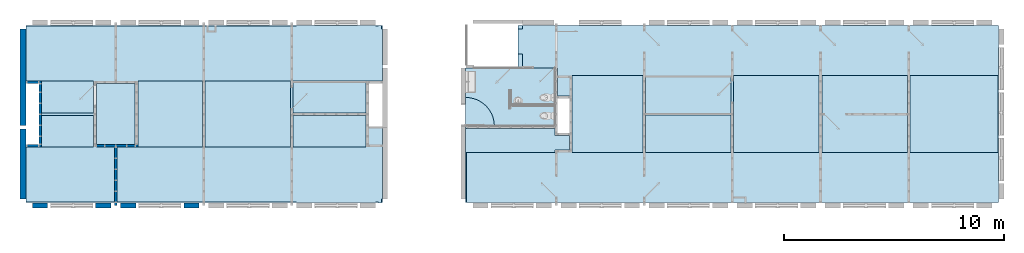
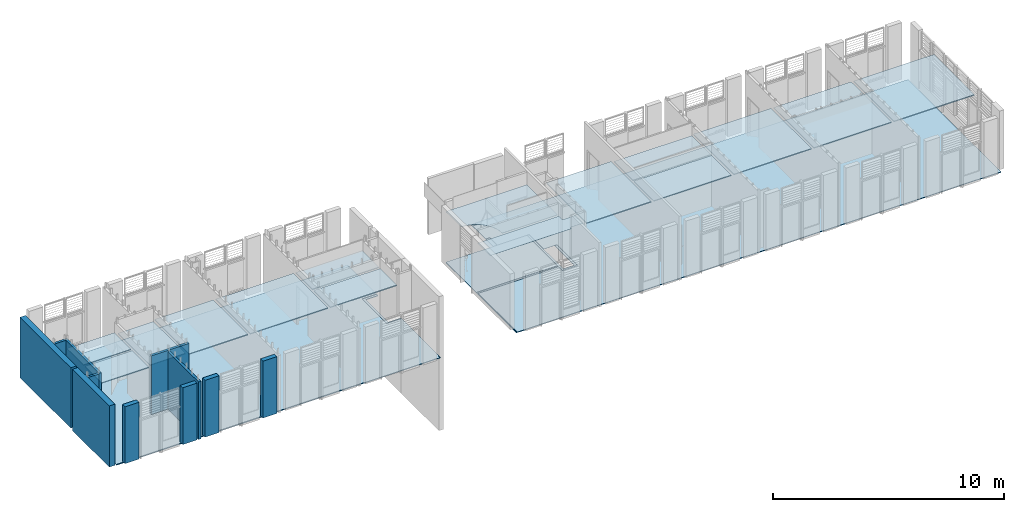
# One storey, part 4 of 20: 20 slabs, 11 walls, 1 opening.
"""IFC2X3 building model written with IfcOpenShell, lengths in metres."""

from ifc_helpers import new_model, entity, si_unit, converted_unit, derived_unit, direction, frame, frame_2d, origin, origin_2d_with_axis, place, context, subcontext, project, spatial, polyline, circle_curve, parameter, trimmed, segment, composite_curve, rectangle, outline, extrude, material, layer, layer_set, layer_usage, type_object, element, save


model = new_model("IFC2X3")

# Units and contexts
model_context = context("Model", 3, precision=1e-05, world=origin(), true_north=direction((6.12303176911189e-17, 1.0)))
body_context = subcontext(model_context, "Body", "Model", "MODEL_VIEW")
ifc_project = project(units=[si_unit("LENGTHUNIT", "METRE"), si_unit("AREAUNIT", "SQUARE_METRE"), si_unit("VOLUMEUNIT", "CUBIC_METRE"), converted_unit("PLANEANGLEUNIT", "DEGREE", entity("IfcRatioMeasure", 0.0174532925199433), si_unit("PLANEANGLEUNIT", "RADIAN"), dimensions=[0, 0, 0, 0, 0, 0, 0]), si_unit("MASSUNIT", "GRAM", prefix="KILO"), derived_unit("MASSDENSITYUNIT", [(si_unit("MASSUNIT", "GRAM", prefix="KILO"), 1), (si_unit("LENGTHUNIT", "METRE"), -3)]), si_unit("TIMEUNIT", "SECOND"), si_unit("FREQUENCYUNIT", "HERTZ"), si_unit("THERMODYNAMICTEMPERATUREUNIT", "DEGREE_CELSIUS"), derived_unit("THERMALTRANSMITTANCEUNIT", [(si_unit("MASSUNIT", "GRAM", prefix="KILO"), 1), (si_unit("THERMODYNAMICTEMPERATUREUNIT", "KELVIN"), -1), (si_unit("TIMEUNIT", "SECOND"), -3)]), derived_unit("VOLUMETRICFLOWRATEUNIT", [(si_unit("LENGTHUNIT", "METRE"), 3), (si_unit("TIMEUNIT", "SECOND"), -1)]), si_unit("ELECTRICCURRENTUNIT", "AMPERE"), si_unit("ELECTRICVOLTAGEUNIT", "VOLT"), si_unit("POWERUNIT", "WATT"), si_unit("FORCEUNIT", "NEWTON", prefix="KILO"), si_unit("ILLUMINANCEUNIT", "LUX"), si_unit("LUMINOUSFLUXUNIT", "LUMEN"), si_unit("LUMINOUSINTENSITYUNIT", "CANDELA"), derived_unit("USERDEFINED", [(si_unit("MASSUNIT", "GRAM", prefix="KILO"), -1), (si_unit("LENGTHUNIT", "METRE"), -2), (si_unit("TIMEUNIT", "SECOND"), 3), (si_unit("LUMINOUSFLUXUNIT", "LUMEN"), 1)]), derived_unit("LINEARVELOCITYUNIT", [(si_unit("LENGTHUNIT", "METRE"), 1), (si_unit("TIMEUNIT", "SECOND"), -1)]), si_unit("PRESSUREUNIT", "PASCAL"), derived_unit("USERDEFINED", [(si_unit("LENGTHUNIT", "METRE"), -2), (si_unit("MASSUNIT", "GRAM", prefix="KILO"), 1), (si_unit("TIMEUNIT", "SECOND"), -2)])], contexts=[model_context])

# Site, building, storey
site_placement = place(None, origin())
site = spatial("IfcSite", under=ifc_project, at=site_placement, Name="Surface", CompositionType="ELEMENT")
building_placement = place(site_placement, origin())
building = spatial("IfcBuilding", under=site, at=building_placement, Name="ExPREF", CompositionType="ELEMENT")
storey_placement = place(building_placement, frame((0.0, 0.0, 4.27)))
storey = spatial("IfcBuildingStorey", under=building, at=storey_placement, Name="R+1", CompositionType="ELEMENT", Elevation=4.27)

# Slab, opening
ifc_material_1 = material(Name="AA-isolant plancher")
ifc_layer_1 = layer(ifc_material_1, 0.025)
ifc_layer_set_1 = layer_set([ifc_layer_1], Name="Sol:A-isolant 2.5cm")
ifc_layer_usage_1 = layer_usage(ifc_layer_set_1, "AXIS3", "POSITIVE", 0.0)
slab_1_placement = place(storey_placement, frame((25.4197436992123, -193.229651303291, -0.0349999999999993)))
slab_1 = element("IfcSlab", 1, at=slab_1_placement, inside=storey, material=ifc_layer_usage_1, Name="Sol:A-isolant 2.5cm", ObjectType="Sol:A-isolant 2.5cm", PredefinedType="FLOOR", context=body_context, shape_type="SweptSolid", body=[
    extrude(outline(polyline([(-22.0799999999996, 4.02158167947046), (-22.0799999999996, -4.02158167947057), (2.12, -4.02158167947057), (2.12, 2.08908136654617), (-0.250000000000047, 2.08908136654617), (-0.250000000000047, 4.02158167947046), (-22.0799999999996, 4.02158167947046)])), frame((22.0799999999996, 4.02158167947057, 0.0249999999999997), z_axis=(0.0, 0.0, -1.0), x_axis=(-1.0, 0.0, 0.0)), (0.0, 0.0, 1.0), 0.0249999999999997),
])
opening_placement = place(slab_1_placement, frame((24.3999999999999, 4.40758160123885, 0.0249999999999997)))
element("IfcOpeningElement", 2, at=opening_placement, cuts=slab_1, Name="Sol:A-isolant 2.5cm:2", ObjectType="Opening", context=body_context, shape_type="SweptSolid", body=[
    extrude(rectangle(XDim=0.555000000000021, YDim=2.50699984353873, at=origin_2d_with_axis()), frame((0.0, 0.0, 0.0), z_axis=(0.0, 0.0, -1.0), x_axis=(1.0, 0.0, 0.0)), (0.0, 0.0, 1.0), 0.0249999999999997),
])

# Slabs
slab_2_placement = place(storey_placement, frame((25.4197436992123, -193.229651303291, -0.0349999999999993)))
element("IfcSlab", 3, at=slab_2_placement, inside=storey, material=ifc_layer_usage_1, Name="Sol:A-isolant 2.5cm:2", ObjectType="Sol:A-isolant 2.5cm", PredefinedType="FLOOR", context=body_context, shape_type="SweptSolid", body=[
    extrude(outline(polyline([(5.89999999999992, 4.02158167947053), (5.89999999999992, 1.38399999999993), (6.5219999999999, 1.38399999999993), (6.5219999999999, -0.565000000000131), (5.89999999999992, -0.565000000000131), (5.89999999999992, -4.02158167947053), (22.0799999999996, -4.02158167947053), (22.0799999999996, -1.38400000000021), (21.4979999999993, -1.38400000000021), (21.4979999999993, 1.384), (22.0799999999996, 1.384), (22.0799999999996, 4.02158167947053), (5.89999999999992, 4.02158167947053)])), frame((22.0799999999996, 4.02158167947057, 0.0249999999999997), z_axis=(0.0, 0.0, -1.0), x_axis=(-1.0, 0.0, 0.0)), (0.0, 0.0, 1.0), 0.0249999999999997),
])
ifc_material_2 = material(Name="AA-sol souple")
ifc_layer_2 = layer(ifc_material_2, 0.01)
ifc_layer_set_2 = layer_set([ifc_layer_2], Name="Sol:A-sol souple")
ifc_layer_usage_2 = layer_usage(ifc_layer_set_2, "AXIS3", "POSITIVE", 0.0)
slab_3_placement = place(storey_placement, origin())
element("IfcSlab", 4, at=slab_3_placement, inside=storey, material=ifc_layer_usage_2, Name="Sol:A-sol souple", ObjectType="Sol:A-sol souple", PredefinedType="FLOOR", context=body_context, shape_type="SweptSolid", body=[
    extrude(outline(polyline([(-4.06336736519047, -12.0757142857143), (-1.56178568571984, -12.0757142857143), (-1.56178568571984, -11.3777142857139), (1.43821431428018, -11.3777142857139), (1.43821431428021, -12.0757142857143), (3.93979599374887, -12.0757142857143), (3.93979599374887, 0.204285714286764), (3.95979599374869, 0.204285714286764), (3.95979599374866, 3.78428571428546), (3.93979599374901, 3.78428571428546), (3.93979599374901, 3.92428571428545), (3.9697959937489, 3.92428571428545), (3.9697959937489, 4.06428571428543), (3.79979559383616, 4.06428571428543), (3.79979559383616, 4.10428571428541), (1.43821431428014, 4.10428571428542), (1.43821431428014, 3.36628571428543), (-0.696785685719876, 3.36628571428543), (-0.696785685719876, 4.10428571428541), (-3.92336736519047, 4.10428571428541), (-3.92336736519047, 4.06428571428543), (-4.0933673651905, 4.06428571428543), (-4.0933673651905, 3.92428571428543), (-4.06336736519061, 3.92428571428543), (-4.06336736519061, 3.78428571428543), (-4.08336736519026, 3.78428571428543), (-4.08336736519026, 0.204285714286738), (-4.06336736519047, 0.204285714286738), (-4.06336736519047, -12.0757142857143)])), frame((37.4954579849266, -189.146283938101, 0.0), z_axis=(0.0, 0.0, -1.0), x_axis=(0.0, 1.0, 0.0)), (0.0, 0.0, 1.0), 0.00999999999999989),
])
ifc_layer_usage_3 = layer_usage(ifc_layer_set_2, "AXIS3", "POSITIVE", 0.0)
slab_4_placement = place(storey_placement, origin())
element("IfcSlab", 5, at=slab_4_placement, inside=storey, material=ifc_layer_usage_3, Name="Sol:A-sol souple", ObjectType="Sol:A-sol souple", PredefinedType="FLOOR", context=body_context, shape_type="SweptSolid", body=[
    extrude(outline(polyline([(-5.00779967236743, -5.55916643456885), (-1.63871799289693, -5.55916643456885), (-1.63871799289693, -1.5416664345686), (-1.95871799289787, -1.5416664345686), (-1.95871799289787, -0.776666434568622), (-0.163718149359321, -0.776666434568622), (-0.163718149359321, -1.43666643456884), (1.1028633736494, -1.43666643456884), (1.1028633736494, -3.02916643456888), (1.75036337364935, -3.02916643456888), (1.75036337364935, -3.22916643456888), (2.88036337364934, -3.22916643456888), (2.88036337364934, -3.02916643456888), (3.03536368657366, -3.02750348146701), (3.03536368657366, 18.6008335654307), (-5.00779967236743, 18.6008335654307), (-5.00779967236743, -5.55916643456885)])), frame((50.9789101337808, -188.221851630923, 0.0), z_axis=(0.0, 0.0, -1.0), x_axis=(0.0, 1.0, 0.0)), (0.0, 0.0, 1.0), 0.00999999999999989),
])
ifc_material_3 = material(Name="AA-sol carrelage")
ifc_layer_3 = layer(ifc_material_3, 0.01)
ifc_layer_set_3 = layer_set([ifc_layer_3], Name="Sol:A-carrelage sol")
ifc_layer_usage_4 = layer_usage(ifc_layer_set_3, "AXIS3", "POSITIVE", 0.0)
slab_5_placement = place(storey_placement, origin())
element("IfcSlab", 6, at=slab_5_placement, inside=storey, material=ifc_layer_usage_4, Name="Sol:A-carrelage sol", ObjectType="Sol:A-carrelage sol", PredefinedType="FLOOR", context=body_context, shape_type="SweptSolid", body=[
    extrude(rectangle(XDim=2.63658136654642, YDim=4.05750000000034, at=frame_2d((1.73194791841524e-14, 4.21884749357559e-15), x_axis=(1.0, 0.0))), frame((47.4084936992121, -188.437278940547, 0.0), z_axis=(0.0, 0.0, -1.0), x_axis=(0.0, 1.0, 0.0)), (0.0, 0.0, 1.0), 0.00999999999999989),
])
ifc_material_4 = material(Name="AA-laine bois")
ifc_layer_4 = layer(ifc_material_4, 0.05)
ifc_layer_set_4 = layer_set([ifc_layer_4], Name="Sol:A-laine de bois 5cm")
ifc_layer_usage_5 = layer_usage(ifc_layer_set_4, "AXIS3", "POSITIVE", 0.0)
slab_6_placement = place(storey_placement, frame((26.1177436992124, -190.708069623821, 2.5)))
element("IfcSlab", 7, at=slab_6_placement, inside=storey, material=ifc_layer_usage_5, Name="Sol:A-laine de bois 5cm", ObjectType="Sol:A-laine de bois 5cm", PredefinedType="FLOOR", context=body_context, shape_type="SweptSolid", body=[
    extrude(rectangle(XDim=3.00000000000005, YDim=3.88399999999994, at=frame_2d((-2.0, 0.0), x_axis=(0.0, -1.0))), frame((7.37199999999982, 1.50000000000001, 0.0499999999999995), z_axis=(0.0, 0.0, -1.0), x_axis=(-1.0, 0.0, 0.0)), (0.0, 0.0, 1.0), 0.0499999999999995),
])
slab_7_placement = place(storey_placement, frame((26.1177436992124, -190.708069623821, 2.5)))
element("IfcSlab", 8, at=slab_7_placement, inside=storey, material=ifc_layer_usage_5, Name="Sol:A-laine de bois 5cm:2", ObjectType="Sol:A-laine de bois 5cm", PredefinedType="FLOOR", context=body_context, shape_type="SweptSolid", body=[
    extrude(rectangle(XDim=3.00000000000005, YDim=2.94200000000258, at=frame_2d((1.52900000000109, 0.0), x_axis=(0.0, -1.0))), frame((7.37199999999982, 1.50000000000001, 0.0499999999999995), z_axis=(0.0, 0.0, -1.0), x_axis=(-1.0, 0.0, 0.0)), (0.0, 0.0, 1.0), 0.0499999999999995),
])
slab_8_placement = place(storey_placement, frame((26.1177436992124, -190.708069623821, 2.5)))
element("IfcSlab", 9, at=slab_8_placement, inside=storey, material=ifc_layer_usage_5, Name="Sol:A-laine de bois 5cm:3", ObjectType="Sol:A-laine de bois 5cm", PredefinedType="FLOOR", context=body_context, shape_type="SweptSolid", body=[
    extrude(rectangle(XDim=1.44199999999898, YDim=2.37199999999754, at=frame_2d((6.18600000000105, 0.779000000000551), x_axis=(0.0, -1.0))), frame((7.37199999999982, 1.50000000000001, 0.0499999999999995), z_axis=(0.0, 0.0, -1.0), x_axis=(-1.0, 0.0, 0.0)), (0.0, 0.0, 1.0), 0.0499999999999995),
])
slab_9_placement = place(storey_placement, frame((26.1177436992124, -190.708069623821, 2.5)))
element("IfcSlab", 10, at=slab_9_placement, inside=storey, material=ifc_layer_usage_5, Name="Sol:A-laine de bois 5cm:4", ObjectType="Sol:A-laine de bois 5cm", PredefinedType="FLOOR", context=body_context, shape_type="SweptSolid", body=[
    extrude(rectangle(XDim=1.44199999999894, YDim=3.31399999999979, at=frame_2d((-5.71499999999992, 0.779000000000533), x_axis=(0.0, -1.0))), frame((7.37199999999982, 1.50000000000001, 0.0499999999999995), z_axis=(0.0, 0.0, -1.0), x_axis=(-1.0, 0.0, 0.0)), (0.0, 0.0, 1.0), 0.0499999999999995),
])
slab_10_placement = place(storey_placement, frame((26.1177436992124, -190.708069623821, 2.5)))
element("IfcSlab", 11, at=slab_10_placement, inside=storey, material=ifc_layer_usage_5, Name="Sol:A-laine de bois 5cm:5", ObjectType="Sol:A-laine de bois 5cm", PredefinedType="FLOOR", context=body_context, shape_type="SweptSolid", body=[
    extrude(rectangle(XDim=3.31399999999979, YDim=1.44200000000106, at=frame_2d((-5.71499999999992, -0.778999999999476), x_axis=(-1.0, 0.0))), frame((7.37199999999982, 1.50000000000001, 0.0499999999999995), z_axis=(0.0, 0.0, -1.0), x_axis=(-1.0, 0.0, 0.0)), (0.0, 0.0, 1.0), 0.0499999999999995),
])
slab_11_placement = place(storey_placement, frame((26.1177436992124, -190.708069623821, 2.5)))
element("IfcSlab", 12, at=slab_11_placement, inside=storey, material=ifc_layer_usage_5, Name="Sol:A-laine de bois 5cm:6", ObjectType="Sol:A-laine de bois 5cm", PredefinedType="FLOOR", context=body_context, shape_type="SweptSolid", body=[
    extrude(rectangle(XDim=2.37199999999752, YDim=1.4420000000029, at=frame_2d((6.18600000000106, -0.77899999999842), x_axis=(1.0, 0.0))), frame((7.37199999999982, 1.50000000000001, 0.0499999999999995), z_axis=(0.0, 0.0, -1.0), x_axis=(-1.0, 0.0, 0.0)), (0.0, 0.0, 1.0), 0.0499999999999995),
])
slab_12_placement = place(storey_placement, frame((26.1177436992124, -190.708069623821, 2.5)))
element("IfcSlab", 13, at=slab_12_placement, inside=storey, material=ifc_layer_usage_5, Name="Sol:A-laine de bois 5cm:7", ObjectType="Sol:A-laine de bois 5cm", PredefinedType="FLOOR", context=body_context, shape_type="SweptSolid", body=[
    extrude(rectangle(XDim=2.76800000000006, YDim=1.7679999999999, at=frame_2d((4.0, 0.0), x_axis=(0.0, -1.0))), frame((7.37199999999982, 1.50000000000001, 0.0499999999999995), z_axis=(0.0, 0.0, -1.0), x_axis=(-1.0, 0.0, 0.0)), (0.0, 0.0, 1.0), 0.0499999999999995),
])
ifc_material_5 = material(Name="AA-fermacell peint")
ifc_layer_5 = layer(ifc_material_5, 0.0125)
ifc_layer_set_5 = layer_set([ifc_layer_5], Name="Sol:A-BA13 12.5mm")
ifc_layer_usage_6 = layer_usage(ifc_layer_set_5, "AXIS3", "POSITIVE", 0.0)
slab_13_placement = place(storey_placement, frame((45.379743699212, -190.958069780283, 2.66)))
element("IfcSlab", 14, at=slab_13_placement, inside=storey, material=ifc_layer_usage_6, Name="Sol:A-BA13 12.5mm", ObjectType="Sol:A-BA13 12.5mm", PredefinedType="FLOOR", context=body_context, shape_type="SweptSolid", body=[
    extrude(outline(composite_curve([segment(polyline([(-1.69875000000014, 1.91954076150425), (-1.69875000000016, -0.717040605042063)]), True, "CONTINUOUS"), segment(polyline([(-1.69875000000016, -0.717040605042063), (1.05875000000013, -0.717040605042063)]), True, "CONTINUOUS"), segment(trimmed(circle_curve(frame_2d((2.35875000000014, -0.717040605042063), x_axis=(-1.0, 0.0)), 1.30000000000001), [parameter(270.0)], [parameter(0.0)], True, "PARAMETER"), False, "CONTINUOUS"), segment(polyline([(2.35875000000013, 0.582959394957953), (2.35875000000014, 1.91954076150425)]), True, "CONTINUOUS"), segment(polyline([(2.35875000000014, 1.91954076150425), (-1.69875000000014, 1.91954076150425)]), True, "CONTINUOUS")], self_intersect=False)), frame((2.35875000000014, 1.91954076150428, 0.0125000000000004), z_axis=(0.0, 0.0, -1.0), x_axis=(-1.0, 0.0, 0.0)), (0.0, 0.0, 1.0), 0.0125000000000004),
])
slab_14_placement = place(storey_placement, frame((45.379743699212, -190.958069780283, 2.66)))
element("IfcSlab", 15, at=slab_14_placement, inside=storey, material=ifc_layer_usage_6, Name="Sol:A-BA13 12.5mm:2", ObjectType="Sol:A-BA13 12.5mm", PredefinedType="FLOOR", context=body_context, shape_type="SweptSolid", body=[
    extrude(outline(polyline([(-1.69875000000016, -0.822040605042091), (-1.69875000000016, -1.14204060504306), (-2.35875000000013, -1.14204060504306), (-2.35875000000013, -1.8090407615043), (-1.69875000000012, -1.8090407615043), (-1.69875000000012, -1.91954076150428), (2.35875000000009, -1.91954076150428), (2.35875000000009, -0.822040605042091), (-1.69875000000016, -0.822040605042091)])), frame((2.35875000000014, 1.91954076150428, 0.0125000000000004), z_axis=(0.0, 0.0, -1.0), x_axis=(-1.0, 0.0, 0.0)), (0.0, 0.0, 1.0), 0.0125000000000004),
])
ifc_layer_usage_7 = layer_usage(ifc_layer_set_4, "AXIS3", "POSITIVE", 0.0)
slab_15_placement = place(storey_placement, frame((50.2022436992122, -190.958069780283, 2.66)))
element("IfcSlab", 16, at=slab_15_placement, inside=storey, material=ifc_layer_usage_7, Name="Sol:A-laine de bois 5cm", ObjectType="Sol:A-laine de bois 5cm", PredefinedType="FLOOR", context=body_context, shape_type="SweptSolid", body=[
    extrude(rectangle(XDim=3.49450000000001, YDim=3.22949999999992, at=frame_2d((8.06399980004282, -0.00274999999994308), x_axis=(0.0, -1.0))), frame((9.67874980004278, 1.74999999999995, 0.0500000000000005), z_axis=(0.0, 0.0, -1.0), x_axis=(-1.0, 0.0, 0.0)), (0.0, 0.0, 1.0), 0.0500000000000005),
])
slab_16_placement = place(storey_placement, frame((50.2022436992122, -190.958069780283, 2.66)))
element("IfcSlab", 17, at=slab_16_placement, inside=storey, material=ifc_layer_usage_7, Name="Sol:A-laine de bois 5cm:2", ObjectType="Sol:A-laine de bois 5cm", PredefinedType="FLOOR", context=body_context, shape_type="SweptSolid", body=[
    extrude(rectangle(XDim=1.64499984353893, YDim=3.88399999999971, at=frame_2d((4.391249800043, 0.857500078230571), x_axis=(0.0, -1.0))), frame((9.67874980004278, 1.74999999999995, 0.0500000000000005), z_axis=(0.0, 0.0, -1.0), x_axis=(-1.0, 0.0, 0.0)), (0.0, 0.0, 1.0), 0.0500000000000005),
])
slab_17_placement = place(storey_placement, frame((50.2022436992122, -190.958069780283, 2.66)))
element("IfcSlab", 18, at=slab_17_placement, inside=storey, material=ifc_layer_usage_7, Name="Sol:A-laine de bois 5cm:3", ObjectType="Sol:A-laine de bois 5cm", PredefinedType="FLOOR", context=body_context, shape_type="SweptSolid", body=[
    extrude(rectangle(XDim=1.71499984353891, YDim=3.88399999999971, at=frame_2d((4.39124980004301, -0.892499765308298), x_axis=(0.0, -1.0))), frame((9.67874980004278, 1.74999999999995, 0.0500000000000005), z_axis=(0.0, 0.0, -1.0), x_axis=(-1.0, 0.0, 0.0)), (0.0, 0.0, 1.0), 0.0500000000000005),
])
slab_18_placement = place(storey_placement, frame((50.2022436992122, -190.958069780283, 2.66)))
element("IfcSlab", 19, at=slab_18_placement, inside=storey, material=ifc_layer_usage_7, Name="Sol:A-laine de bois 5cm:4", ObjectType="Sol:A-laine de bois 5cm", PredefinedType="FLOOR", context=body_context, shape_type="SweptSolid", body=[
    extrude(rectangle(XDim=3.49999968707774, YDim=3.88399999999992, at=frame_2d((0.391249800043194, 1.56461115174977e-07), x_axis=(0.0, -1.0))), frame((9.67874980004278, 1.74999999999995, 0.0500000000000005), z_axis=(0.0, 0.0, -1.0), x_axis=(-1.0, 0.0, 0.0)), (0.0, 0.0, 1.0), 0.0500000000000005),
])
slab_19_placement = place(storey_placement, frame((50.2022436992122, -190.958069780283, 2.66)))
element("IfcSlab", 20, at=slab_19_placement, inside=storey, material=ifc_layer_usage_7, Name="Sol:A-laine de bois 5cm:5", ObjectType="Sol:A-laine de bois 5cm", PredefinedType="FLOOR", context=body_context, shape_type="SweptSolid", body=[
    extrude(rectangle(XDim=3.49999968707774, YDim=3.88399999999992, at=frame_2d((-3.60875019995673, 1.56461115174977e-07), x_axis=(0.0, -1.0))), frame((9.67874980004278, 1.74999999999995, 0.0500000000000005), z_axis=(0.0, 0.0, -1.0), x_axis=(-1.0, 0.0, 0.0)), (0.0, 0.0, 1.0), 0.0500000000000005),
])
slab_20_placement = place(storey_placement, frame((50.2022436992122, -190.958069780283, 2.66)))
element("IfcSlab", 21, at=slab_20_placement, inside=storey, material=ifc_layer_usage_7, Name="Sol:A-laine de bois 5cm:6", ObjectType="Sol:A-laine de bois 5cm", PredefinedType="FLOOR", context=body_context, shape_type="SweptSolid", body=[
    extrude(rectangle(XDim=3.49999968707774, YDim=4.01199960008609, at=frame_2d((-7.67274999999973, 1.56461115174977e-07), x_axis=(0.0, -1.0))), frame((9.67874980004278, 1.74999999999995, 0.0500000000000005), z_axis=(0.0, 0.0, -1.0), x_axis=(-1.0, 0.0, 0.0)), (0.0, 0.0, 1.0), 0.0500000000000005),
])

# Walls
ifc_material_6 = material(Name="AA-mur cloison finition")
ifc_layer_6 = layer(ifc_material_6, 0.018)
ifc_layer_7 = layer(ifc_material_1, 0.08)
ifc_layer_8 = layer(ifc_material_6, 0.018)
ifc_layer_set_6 = layer_set([ifc_layer_6, ifc_layer_7, ifc_layer_8], Name="Mur de base:A-cloison CP 11.6 cm")
ifc_layer_usage_8 = layer_usage(ifc_layer_set_6, "AXIS2", "NEGATIVE", 0.058)
wall_type_1 = type_object("IfcWallType", Name="Mur de base:A-cloison CP 11.6 cm", PredefinedType="STANDARD", material=ifc_layer_set_6)
wall_1_placement = place(storey_placement, frame((26.0017436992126, -190.65006962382, 0.0), z_axis=(0.0, 0.0, 1.0), x_axis=(-1.0, 0.0, 0.0)))
element("IfcWallStandardCase", 22, at=wall_1_placement, inside=storey, type_object=wall_type_1, material=ifc_layer_usage_8, Name="Mur de base:A-cloison CP 11.6 cm", ObjectType="Mur de base:A-cloison CP 11.6 cm", context=body_context, shape_type="SweptSolid", body=[
    extrude(rectangle(XDim=0.582000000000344, YDim=0.115999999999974, at=frame_2d((0.291000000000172, 0.0), x_axis=(-1.0, 0.0))), origin(), (0.0, 0.0, 1.0), 3.06),
])
ifc_layer_usage_9 = layer_usage(ifc_layer_set_6, "AXIS2", "NEGATIVE", 0.058)
wall_2_placement = place(storey_placement, frame((26.0017436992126, -187.76606962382, -0.259999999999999), z_axis=(0.0, 0.0, 1.0), x_axis=(-1.0, 0.0, 0.0)))
element("IfcWallStandardCase", 23, at=wall_2_placement, inside=storey, type_object=wall_type_1, material=ifc_layer_usage_9, Name="Mur de base:A-cloison CP 11.6 cm", ObjectType="Mur de base:A-cloison CP 11.6 cm", context=body_context, shape_type="SweptSolid", body=[
    extrude(rectangle(XDim=0.582000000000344, YDim=0.115999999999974, at=frame_2d((0.291000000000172, 0.0), x_axis=(-1.0, 0.0))), origin(), (0.0, 0.0, 1.0), 3.35),
])
ifc_layer_usage_10 = layer_usage(ifc_layer_set_6, "AXIS2", "NEGATIVE", 0.058)
wall_3_placement = place(storey_placement, frame((26.0597436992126, -187.70806962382, -0.00999999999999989), z_axis=(0.0, 0.0, 1.0), x_axis=(0.0, -1.0, 0.0)))
element("IfcWallStandardCase", 24, at=wall_3_placement, inside=storey, type_object=wall_type_1, material=ifc_layer_usage_10, Name="Mur de base:A-cloison CP 11.6 cm", ObjectType="Mur de base:A-cloison CP 11.6 cm", context=body_context, shape_type="SweptSolid", body=[
    extrude(rectangle(XDim=3.00000000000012, YDim=0.116, at=frame_2d((1.50000000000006, 0.0), x_axis=(-1.0, 0.0))), origin(), (0.0, 0.0, 1.0), 3.1),
])
ifc_layer_usage_11 = layer_usage(ifc_layer_set_6, "AXIS2", "POSITIVE", -0.058)
wall_4_placement = place(storey_placement, frame((28.6057436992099, -190.65006962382, 0.0)))
element("IfcWallStandardCase", 25, at=wall_4_placement, inside=storey, type_object=wall_type_1, material=ifc_layer_usage_11, Name="Mur de base:A-cloison CP 11.6 cm", ObjectType="Mur de base:A-cloison CP 11.6 cm", context=body_context, shape_type="SweptSolid", body=[
    extrude(rectangle(XDim=1.88399999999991, YDim=0.115999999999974, at=frame_2d((0.941999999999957, 6.06459327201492e-15), x_axis=(-1.0, 0.0))), origin(), (0.0, 0.0, 1.0), 3.1),
])
ifc_layer_usage_12 = layer_usage(ifc_layer_set_6, "AXIS2", "NEGATIVE", 0.058)
wall_5_placement = place(storey_placement, frame((29.4897436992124, -190.70806962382, 0.0), z_axis=(0.0, 0.0, 1.0), x_axis=(0.0, -1.0, 0.0)))
element("IfcWallStandardCase", 26, at=wall_5_placement, inside=storey, type_object=wall_type_1, material=ifc_layer_usage_12, Name="Mur de base:A-cloison CP 11.6 cm", ObjectType="Mur de base:A-cloison CP 11.6 cm", context=body_context, shape_type="SweptSolid", body=[
    extrude(rectangle(XDim=2.65158167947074, YDim=0.116, at=frame_2d((1.32579083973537, -8.67361737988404e-17), x_axis=(-1.0, 0.0))), origin(), (0.0, 0.0, 1.0), 3.04),
])
ifc_material_7 = material(Name="AA-BTC")
ifc_layer_9 = layer(ifc_material_7, 0.22)
ifc_layer_set_7 = layer_set([ifc_layer_9], Name="Mur de base:A-prémur BTC")
ifc_layer_usage_13 = layer_usage(ifc_layer_set_7, "AXIS2", "NEGATIVE", 0.11)
wall_type_2 = type_object("IfcWallType", Name="Mur de base:A-prémur BTC", PredefinedType="STANDARD", material=ifc_layer_set_7)
wall_6_placement = place(storey_placement, frame((29.6997436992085, -193.359651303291, 0.0999999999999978)))
element("IfcWallStandardCase", 27, at=wall_6_placement, inside=storey, type_object=wall_type_2, material=ifc_layer_usage_13, Name="Mur de base:A-prémur BTC", ObjectType="Mur de base:A-prémur BTC", context=body_context, shape_type="SweptSolid", body=[
    extrude(rectangle(XDim=0.700000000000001, YDim=0.220000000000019, at=frame_2d((0.350000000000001, 0.0), x_axis=(-1.0, 0.0))), origin(), (0.0, 0.0, 1.0), 3.0),
])
ifc_layer_usage_14 = layer_usage(ifc_layer_set_7, "AXIS2", "POSITIVE", -0.11)
wall_7_placement = place(storey_placement, frame((33.2797436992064, -193.359651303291, 0.0999999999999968), z_axis=(0.0, 0.0, 1.0), x_axis=(-1.0, 0.0, 0.0)))
element("IfcWallStandardCase", 28, at=wall_7_placement, inside=storey, type_object=wall_type_2, material=ifc_layer_usage_14, Name="Mur de base:A-prémur BTC", ObjectType="Mur de base:A-prémur BTC", context=body_context, shape_type="SweptSolid", body=[
    extrude(rectangle(XDim=0.700000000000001, YDim=0.220000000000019, at=frame_2d((0.350000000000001, 0.0), x_axis=(-1.0, 0.0))), origin(), (0.0, 0.0, 1.0), 3.0),
])
ifc_layer_usage_15 = layer_usage(ifc_layer_set_7, "AXIS2", "NEGATIVE", 0.11)
wall_8_placement = place(storey_placement, frame((25.6997436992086, -193.359651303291, 0.0999999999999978)))
element("IfcWallStandardCase", 29, at=wall_8_placement, inside=storey, type_object=wall_type_2, material=ifc_layer_usage_15, Name="Mur de base:A-prémur BTC", ObjectType="Mur de base:A-prémur BTC", context=body_context, shape_type="SweptSolid", body=[
    extrude(rectangle(XDim=0.700000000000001, YDim=0.220000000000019, at=frame_2d((0.350000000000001, 0.0), x_axis=(-1.0, 0.0))), origin(), (0.0, 0.0, 1.0), 3.0),
])
ifc_layer_usage_16 = layer_usage(ifc_layer_set_7, "AXIS2", "POSITIVE", -0.11)
wall_9_placement = place(storey_placement, frame((29.2797436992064, -193.359651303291, 0.0999999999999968), z_axis=(0.0, 0.0, 1.0), x_axis=(-1.0, 0.0, 0.0)))
element("IfcWallStandardCase", 30, at=wall_9_placement, inside=storey, type_object=wall_type_2, material=ifc_layer_usage_16, Name="Mur de base:A-prémur BTC", ObjectType="Mur de base:A-prémur BTC", context=body_context, shape_type="SweptSolid", body=[
    extrude(rectangle(XDim=0.700000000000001, YDim=0.220000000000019, at=frame_2d((0.350000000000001, 0.0), x_axis=(-1.0, 0.0))), origin(), (0.0, 0.0, 1.0), 3.0),
])
ifc_layer_10 = layer(ifc_material_7, 0.22)
ifc_material_8 = material(Name="AA-air")
ifc_layer_11 = layer(ifc_material_8, 0.025)
ifc_layer_12 = layer(ifc_material_1, 0.02)
ifc_layer_13 = layer(ifc_material_5, 0.013)
ifc_layer_set_8 = layer_set([ifc_layer_10, ifc_layer_11, ifc_layer_12, ifc_layer_13], Name="Mur de base:A-mur BTC + iso + BA13")
ifc_layer_usage_17 = layer_usage(ifc_layer_set_8, "AXIS2", "POSITIVE", -0.139)
wall_type_3 = type_object("IfcWallType", Name="Mur de base:A-mur BTC + iso + BA13", PredefinedType="STANDARD", material=ifc_layer_set_8)
wall_10_placement = place(storey_placement, frame((25.2807436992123, -185.346488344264, -0.0900000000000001), z_axis=(0.0, 0.0, 1.0), x_axis=(0.0, -1.0, 0.0)))
element("IfcWallStandardCase", 31, at=wall_10_placement, inside=storey, type_object=wall_type_3, material=ifc_layer_usage_17, Name="Mur de base:A-mur BTC + iso + BA13", ObjectType="Mur de base:A-mur BTC + iso + BA13", context=body_context, shape_type="SweptSolid", body=[
    extrude(rectangle(XDim=4.39158127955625, YDim=0.277999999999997, at=frame_2d((2.19579063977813, 0.0), x_axis=(-1.0, 0.0))), origin(), (0.0, 0.0, 1.0), 3.19),
])
ifc_layer_usage_18 = layer_usage(ifc_layer_set_8, "AXIS2", "POSITIVE", -0.139)
wall_11_placement = place(storey_placement, frame((25.2807436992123, -189.87806962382, -0.130000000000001), z_axis=(0.0, 0.0, 1.0), x_axis=(0.0, -1.0, 0.0)))
element("IfcWallStandardCase", 32, at=wall_11_placement, inside=storey, type_object=wall_type_3, material=ifc_layer_usage_18, Name="Mur de base:A-mur BTC + iso + BA13", ObjectType="Mur de base:A-mur BTC + iso + BA13", context=body_context, shape_type="SweptSolid", body=[
    extrude(rectangle(XDim=3.19158167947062, YDim=0.277999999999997, at=frame_2d((1.59579083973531, 0.0), x_axis=(-1.0, 0.0))), origin(), (0.0, 0.0, 1.0), 3.23),
])

save(model, "model.ifc")
